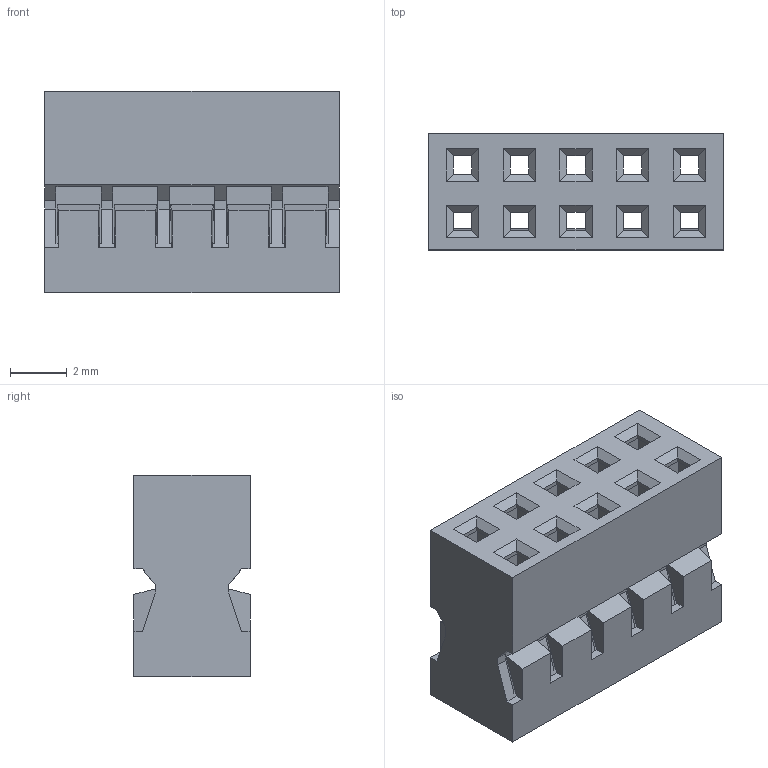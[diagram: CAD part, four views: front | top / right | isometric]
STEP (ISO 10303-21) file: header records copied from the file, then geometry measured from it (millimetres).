
FILE_DESCRIPTION((''),'2;1');
FILE_NAME('69307-010LF','2007-12-04T',('lpotteiger'),('FCI USA, Inc. - CDC Division'),'PRO/ENGINEER BY PARAMETRIC TECHNOLOGY CORPORATION, 2005380','PRO/ENGINEER BY PARAMETRIC TECHNOLOGY CORPORATION, 2005380','');
FILE_SCHEMA(('CONFIG_CONTROL_DESIGN'));
Length unit declared in the file: millimetre
Products named in the file (1): 69307-010LF
Bounding box: 10.4 x 4.1 x 7.1 mm (x, y, z)
Volume: 142.6 mm3; surface area: 687.4 mm2
Topology: 1 solids, 1 shells, 238 faces, 678 edges, 432 vertices
Faces by surface type: plane 238
Entity records: 7620 total; most frequent: ORIENTED_EDGE 1356, CARTESIAN_POINT 1348, DIRECTION 1154, VECTOR 678, LINE 678, EDGE_CURVE 678, VERTEX_POINT 432, EDGE_LOOP 268
